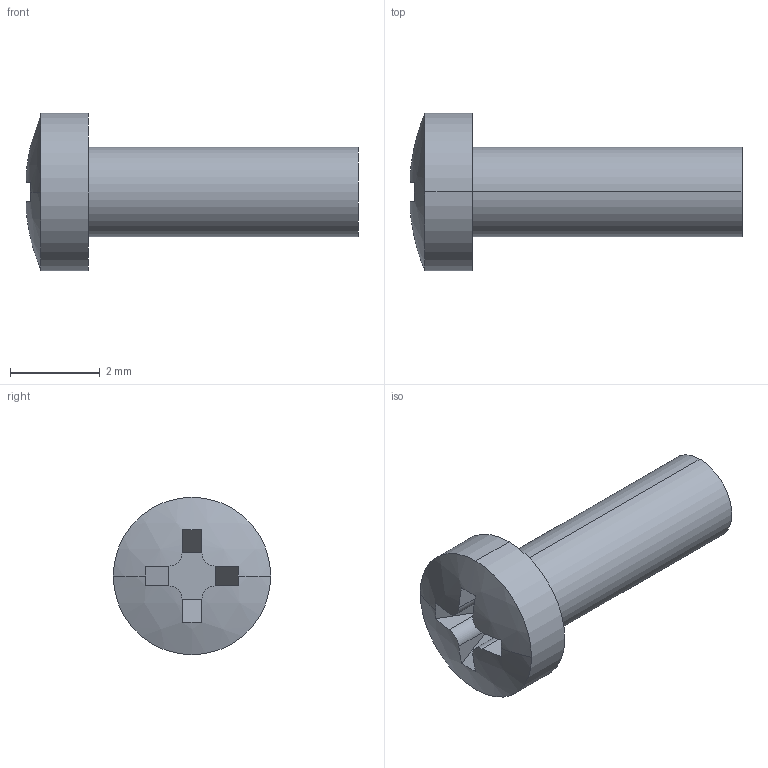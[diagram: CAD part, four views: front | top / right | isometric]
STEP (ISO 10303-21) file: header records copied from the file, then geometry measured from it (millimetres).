
FILE_DESCRIPTION(('Open CASCADE Model'),'2;1');
FILE_NAME('gb-small-pan-head-screw-m2-x-6.step','2026-11-14T14:31:58',( 'Author'),('Open CASCADE'),'Open CASCADE STEP processor 8.0', 'Open CASCADE 8.0','Unknown');
FILE_SCHEMA(('AP242_MANAGED_MODEL_BASED_3D_ENGINEERING_MIM_LF {1 0 10303 442 1 1 4 }' ));
Length unit declared in the file: millimetre
Products named in the file (1): GB Small Pan Head Screw M2 x 6
Bounding box: 7.38 x 3.5 x 3.5 mm (x, y, z)
Volume: 29.4 mm3; surface area: 73.6 mm2
Topology: 1 solids, 1 shells, 25 faces, 66 edges, 44 vertices
Faces by surface type: plane 15, cylinder 8, sphere 2
Entity records: 2200 total; most frequent: CARTESIAN_POINT 980, DIRECTION 212, ORIENTED_EDGE 132, PCURVE 132, DEFINITIONAL_REPRESENTATION 132, LINE 94, VECTOR 94, EDGE_CURVE 66
